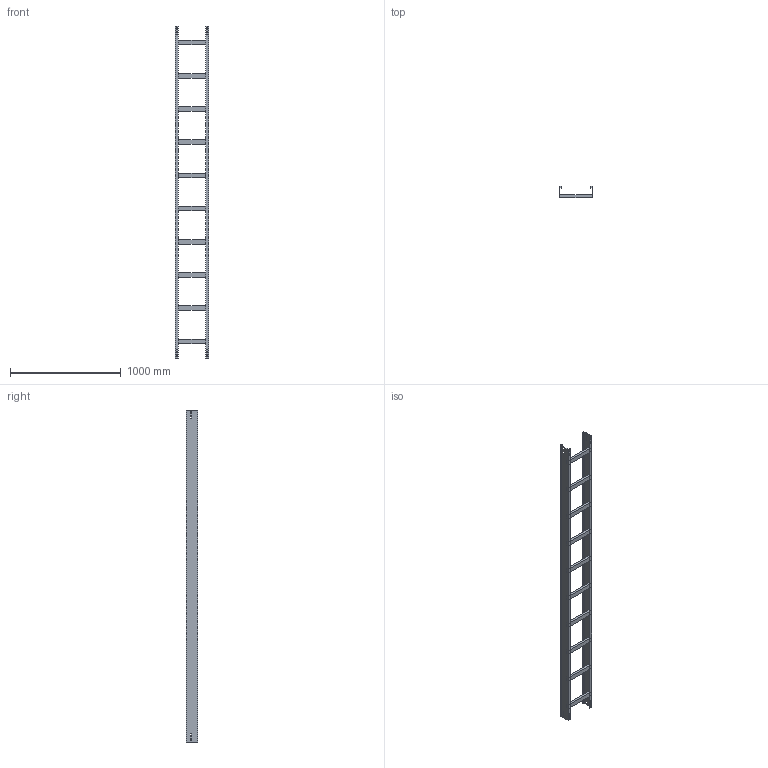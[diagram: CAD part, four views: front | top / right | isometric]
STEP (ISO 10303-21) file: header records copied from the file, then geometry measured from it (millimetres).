
FILE_DESCRIPTION (( 'STEP AP214' ), '1' );
FILE_NAME ('01B3D300.step', '2025-02-21T15:59:39', ( '' ), ( '' ), 'SwSTEP 2.0', 'SolidWorks 2023', '' );
FILE_SCHEMA (( 'AUTOMOTIVE_DESIGN' ));
Length unit declared in the file: millimetre
Products named in the file (3): TRAVERSINO_300; 01B3D300; LONGH.H100
Assembly tree (12 placements, depth 2):
  01B3D300
    LONGH.H100  x2
    TRAVERSINO_300  x10
Bounding box: 300 x 100 x 3000 mm (x, y, z)
Volume: 5044672 mm3; surface area: 2089056 mm2
Topology: 12 solids, 12 shells, 144 faces, 360 edges, 240 vertices
Faces by surface type: plane 144
Entity records: 1696 total; most frequent: CARTESIAN_POINT 283, ORIENTED_EDGE 264, DIRECTION 258, LINE 132, VECTOR 132, EDGE_CURVE 132, VERTEX_POINT 88, EDGE_LOOP 64
